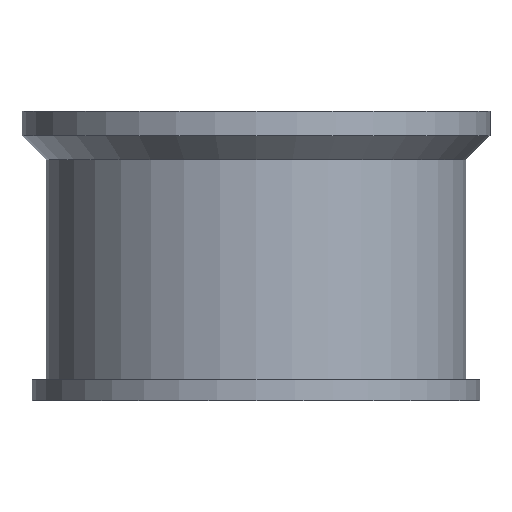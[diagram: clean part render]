
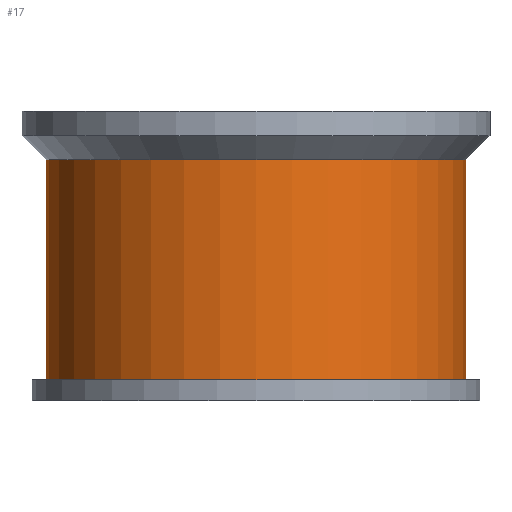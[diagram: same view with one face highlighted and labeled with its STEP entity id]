
A CAD part, front view. The second image highlights one B-rep face of the part: STEP entity #17.
In plain terms, the highlighted cylindrical face has radius 3.05 mm (diameter 6.1 mm), a full revolution.
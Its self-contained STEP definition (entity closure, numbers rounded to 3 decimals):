
#17 = ADVANCED_FACE('',(#18),#31,.T.);
#18 = FACE_BOUND('',#19,.T.);
#19 = EDGE_LOOP('',(#20,#54,#77,#104));
#20 = ORIENTED_EDGE('',*,*,#21,.T.);
#21 = EDGE_CURVE('',#22,#22,#24,.T.);
#22 = VERTEX_POINT('',#23);
#23 = CARTESIAN_POINT('',(3.05,0.,0.3));
#24 = SURFACE_CURVE('',#25,(#30,#42),.PCURVE_S1.);
#25 = CIRCLE('',#26,3.05);
#26 = AXIS2_PLACEMENT_3D('',#27,#28,#29);
#27 = CARTESIAN_POINT('',(0.,0.,0.3));
#28 = DIRECTION('',(0.,0.,1.));
#29 = DIRECTION('',(1.,0.,-0.));
#30 = PCURVE('',#31,#36);
#31 = CYLINDRICAL_SURFACE('',#32,3.05);
#32 = AXIS2_PLACEMENT_3D('',#33,#34,#35);
#33 = CARTESIAN_POINT('',(0.,0.,0.));
#34 = DIRECTION('',(0.,0.,1.));
#35 = DIRECTION('',(1.,0.,-0.));
#36 = DEFINITIONAL_REPRESENTATION('',(#37),#41);
#37 = LINE('',#38,#39);
#38 = CARTESIAN_POINT('',(0.,0.3));
#39 = VECTOR('',#40,1.);
#40 = DIRECTION('',(1.,0.));
#41 = ( GEOMETRIC_REPRESENTATION_CONTEXT(2) 
PARAMETRIC_REPRESENTATION_CONTEXT() REPRESENTATION_CONTEXT('2D SPACE',''
  ) );
#42 = PCURVE('',#43,#48);
#43 = PLANE('',#44);
#44 = AXIS2_PLACEMENT_3D('',#45,#46,#47);
#45 = CARTESIAN_POINT('',(0.,0.,0.3));
#46 = DIRECTION('',(0.,0.,1.));
#47 = DIRECTION('',(1.,0.,-0.));
#48 = DEFINITIONAL_REPRESENTATION('',(#49),#53);
#49 = CIRCLE('',#50,3.05);
#50 = AXIS2_PLACEMENT_2D('',#51,#52);
#51 = CARTESIAN_POINT('',(0.,0.));
#52 = DIRECTION('',(1.,0.));
#53 = ( GEOMETRIC_REPRESENTATION_CONTEXT(2) 
PARAMETRIC_REPRESENTATION_CONTEXT() REPRESENTATION_CONTEXT('2D SPACE',''
  ) );
#54 = ORIENTED_EDGE('',*,*,#55,.T.);
#55 = EDGE_CURVE('',#22,#56,#58,.T.);
#56 = VERTEX_POINT('',#57);
#57 = CARTESIAN_POINT('',(3.05,0.,3.5));
#58 = SEAM_CURVE('',#59,(#63,#70),.PCURVE_S1.);
#59 = LINE('',#60,#61);
#60 = CARTESIAN_POINT('',(3.05,0.,0.));
#61 = VECTOR('',#62,1.);
#62 = DIRECTION('',(0.,0.,1.));
#63 = PCURVE('',#31,#64);
#64 = DEFINITIONAL_REPRESENTATION('',(#65),#69);
#65 = LINE('',#66,#67);
#66 = CARTESIAN_POINT('',(0.,-0.));
#67 = VECTOR('',#68,1.);
#68 = DIRECTION('',(0.,1.));
#69 = ( GEOMETRIC_REPRESENTATION_CONTEXT(2) 
PARAMETRIC_REPRESENTATION_CONTEXT() REPRESENTATION_CONTEXT('2D SPACE',''
  ) );
#70 = PCURVE('',#31,#71);
#71 = DEFINITIONAL_REPRESENTATION('',(#72),#76);
#72 = LINE('',#73,#74);
#73 = CARTESIAN_POINT('',(6.283,-0.));
#74 = VECTOR('',#75,1.);
#75 = DIRECTION('',(0.,1.));
#76 = ( GEOMETRIC_REPRESENTATION_CONTEXT(2) 
PARAMETRIC_REPRESENTATION_CONTEXT() REPRESENTATION_CONTEXT('2D SPACE',''
  ) );
#77 = ORIENTED_EDGE('',*,*,#78,.F.);
#78 = EDGE_CURVE('',#56,#56,#79,.T.);
#79 = SURFACE_CURVE('',#80,(#85,#92),.PCURVE_S1.);
#80 = CIRCLE('',#81,3.05);
#81 = AXIS2_PLACEMENT_3D('',#82,#83,#84);
#82 = CARTESIAN_POINT('',(0.,0.,3.5));
#83 = DIRECTION('',(0.,0.,1.));
#84 = DIRECTION('',(1.,0.,-0.));
#85 = PCURVE('',#31,#86);
#86 = DEFINITIONAL_REPRESENTATION('',(#87),#91);
#87 = LINE('',#88,#89);
#88 = CARTESIAN_POINT('',(0.,3.5));
#89 = VECTOR('',#90,1.);
#90 = DIRECTION('',(1.,0.));
#91 = ( GEOMETRIC_REPRESENTATION_CONTEXT(2) 
PARAMETRIC_REPRESENTATION_CONTEXT() REPRESENTATION_CONTEXT('2D SPACE',''
  ) );
#92 = PCURVE('',#93,#98);
#93 = CONICAL_SURFACE('',#94,3.05,0.785);
#94 = AXIS2_PLACEMENT_3D('',#95,#96,#97);
#95 = CARTESIAN_POINT('',(0.,0.,3.5));
#96 = DIRECTION('',(0.,0.,1.));
#97 = DIRECTION('',(1.,0.,-0.));
#98 = DEFINITIONAL_REPRESENTATION('',(#99),#103);
#99 = LINE('',#100,#101);
#100 = CARTESIAN_POINT('',(0.,0.));
#101 = VECTOR('',#102,1.);
#102 = DIRECTION('',(1.,0.));
#103 = ( GEOMETRIC_REPRESENTATION_CONTEXT(2) 
PARAMETRIC_REPRESENTATION_CONTEXT() REPRESENTATION_CONTEXT('2D SPACE',''
  ) );
#104 = ORIENTED_EDGE('',*,*,#55,.F.);
